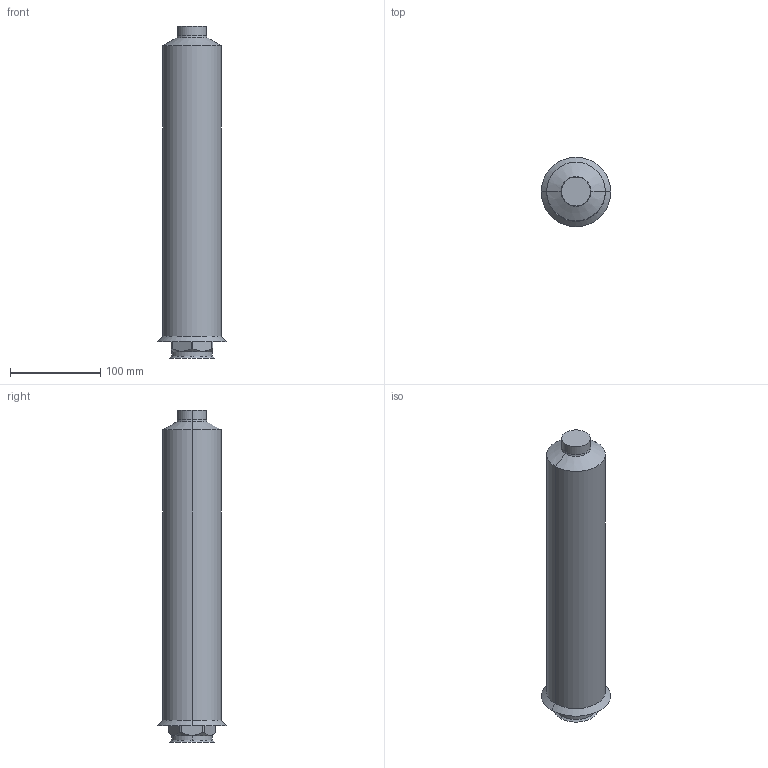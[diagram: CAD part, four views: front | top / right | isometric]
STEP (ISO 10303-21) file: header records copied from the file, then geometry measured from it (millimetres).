
FILE_DESCRIPTION (( 'STEP AP214' ), '1' );
FILE_NAME ('T20_CLOSED_350_HELICAL.STEP', '2009-05-11T13:09:44', ( 'Synventive Molding Solutions' ), ( 'Synventive Molding Solutions' ), 'SwSTEP 2.0', 'SolidWorks 2008', '' );
FILE_SCHEMA (( 'AUTOMOTIVE_DESIGN' ));
Length unit declared in the file: millimetre
Products named in the file (1): T20_CLOSED_350_HELICAL
Bounding box: 77 x 77 x 368 mm (x, y, z)
Volume: 1736539.8 mm3; surface area: 149684.9 mm2
Topology: 2 solids, 2 shells, 220 faces, 589 edges, 377 vertices
Faces by surface type: cylinder 73, plane 70, bspline 35, torus 24, cone 18
Entity records: 19632 total; most frequent: CARTESIAN_POINT 12176, ORIENTED_EDGE 1178, DIRECTION 917, EDGE_CURVE 589, VERTEX_POINT 377, AXIS2_PLACEMENT_3D 355, EDGE_LOOP 228, UNCERTAINTY_MEASURE_WITH_UNIT 222
